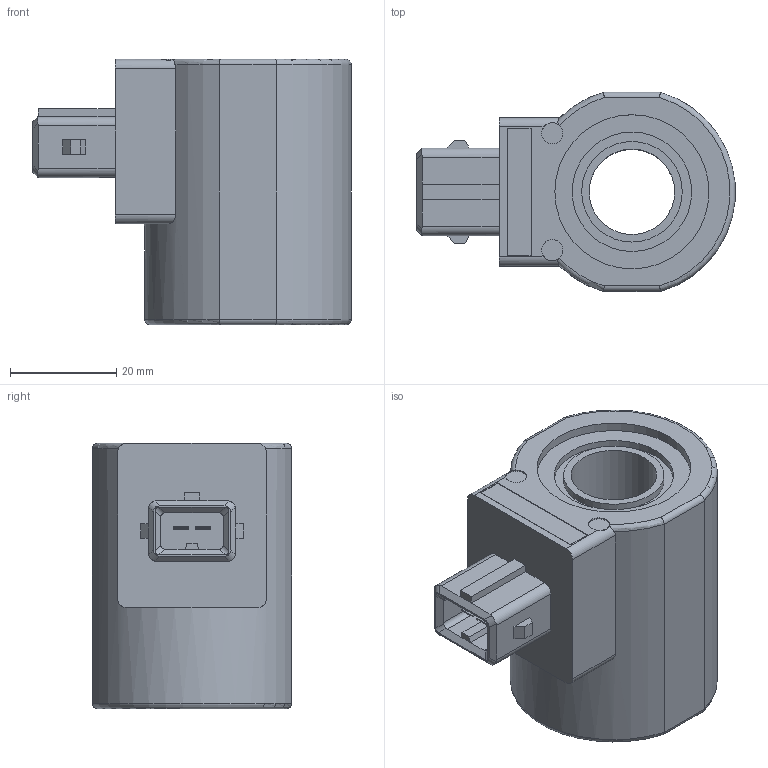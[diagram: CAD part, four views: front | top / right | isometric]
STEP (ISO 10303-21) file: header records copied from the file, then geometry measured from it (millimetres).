
FILE_DESCRIPTION((''),'2;1');
FILE_NAME('Q:\Delta CADD Insertion Codes\3D Solid models\Coils\STEP\LIJ.stp','2012-06-04T10:05:32',('Dan'),(''),'Autodesk Inventor 2012','Autodesk Inventor 2012','');
FILE_SCHEMA(('AUTOMOTIVE_DESIGN { 1 0 10303 214 1 1 1 1 }'));
Length unit declared in the file: inch
Products named in the file (1): Part22
Bounding box: 59.93 x 37.5 x 50 mm (x, y, z)
Volume: 55416.4 mm3; surface area: 13506.8 mm2
Topology: 1 solids, 1 shells, 113 faces, 282 edges, 184 vertices
Faces by surface type: plane 73, cylinder 35, torus 5
Full cylindrical faces by diameter (mm): 4 x2, 16.104 x1, 18.948 x2, 22.504 x2, 29.03 x2
Entity records: 3484 total; most frequent: CARTESIAN_POINT 765, DIRECTION 554, ORIENTED_EDGE 542, EDGE_CURVE 271, AXIS2_PLACEMENT_3D 187, VERTEX_POINT 182, VECTOR 180, LINE 180
